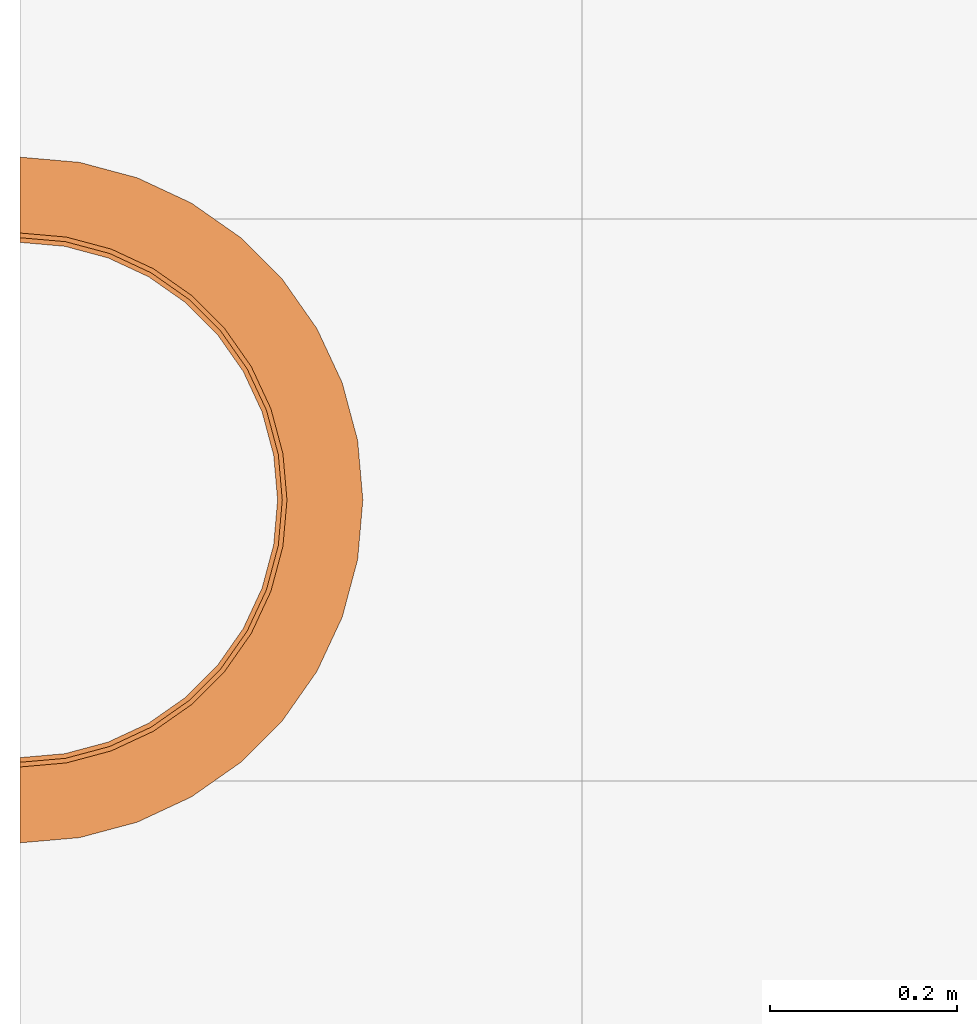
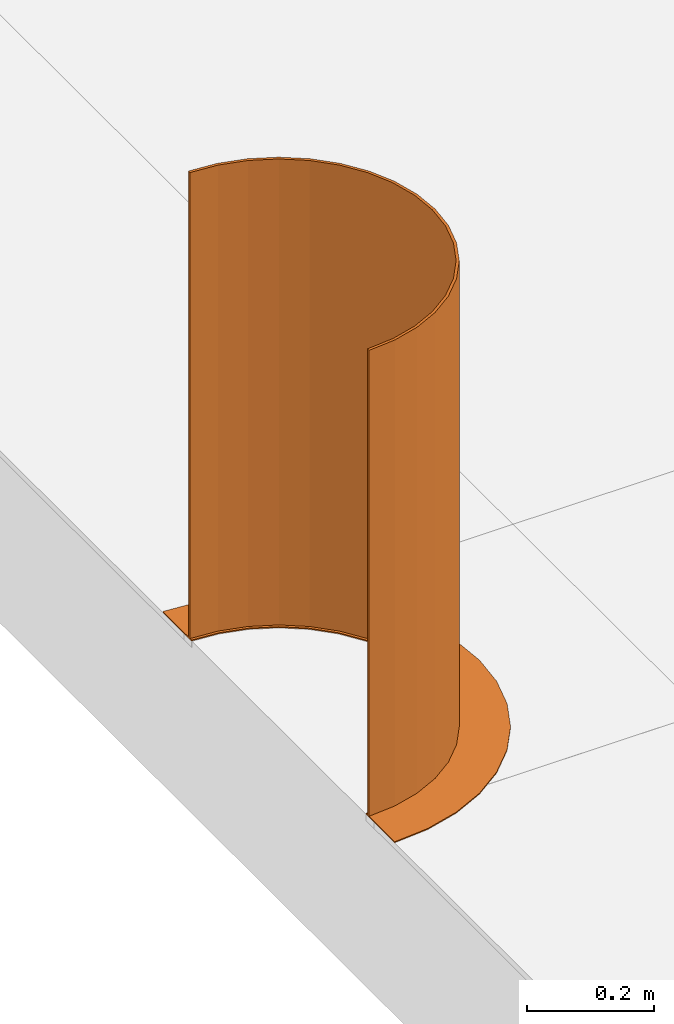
# One storey, part 10 of 10: 1 proxy.
"""IFC2X3 building model written with IfcOpenShell, lengths in millimetres."""

from ifc_helpers import new_model, entity, si_unit, converted_unit, derived_unit, direction, frame, origin, origin_with_axes, place, context, subcontext, project, spatial, faceted_brep, material, type_object, element, save


model = new_model("IFC2X3")

# Units and contexts
model_context = context("Model", 3, precision=0.01, world=origin(), true_north=direction((6.12303176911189e-17, 1.0)))
plan_context = context("Plan", 3, precision=1e-05, world=origin_with_axes())
body_context = subcontext(model_context, "Body", "Model", "MODEL_VIEW")
ifc_project = project(units=[converted_unit("PLANEANGLEUNIT", "DEGREE", entity("IfcPositiveLengthMeasure", 0.0174532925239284), si_unit("PLANEANGLEUNIT", "RADIAN"), dimensions=[0, 0, 0, 0, 0, 0, 0]), si_unit("AREAUNIT", "SQUARE_METRE"), si_unit("LENGTHUNIT", "METRE", prefix="MILLI"), si_unit("MASSUNIT", "GRAM", prefix="KILO"), si_unit("POWERUNIT", "WATT"), si_unit("PRESSUREUNIT", "PASCAL"), si_unit("FORCEUNIT", "NEWTON", prefix="KILO"), si_unit("ELECTRICVOLTAGEUNIT", "VOLT"), si_unit("ELECTRICCURRENTUNIT", "AMPERE"), si_unit("THERMODYNAMICTEMPERATUREUNIT", "DEGREE_CELSIUS"), si_unit("TIMEUNIT", "SECOND"), si_unit("VOLUMEUNIT", "CUBIC_METRE"), derived_unit("LINEARVELOCITYUNIT", [(si_unit("LENGTHUNIT", "METRE"), 1), (si_unit("TIMEUNIT", "SECOND"), -1)]), derived_unit("VOLUMETRICFLOWRATEUNIT", [(si_unit("VOLUMEUNIT", "CUBIC_METRE"), 1), (si_unit("TIMEUNIT", "SECOND"), -1)]), derived_unit("THERMALTRANSMITTANCEUNIT", [(si_unit("POWERUNIT", "WATT"), 1), (si_unit("THERMODYNAMICTEMPERATUREUNIT", "KELVIN"), -1), (si_unit("AREAUNIT", "SQUARE_METRE"), -1)]), derived_unit("SOUNDPRESSUREUNIT", [(si_unit("PRESSUREUNIT", "PASCAL"), 1)])], contexts=[model_context, plan_context])

# Site, building, storey
site_placement = place(None, frame((2314154.5009392, 1029894.10887124, 0.0), z_axis=(0.0, 0.0, 1.0), x_axis=(1.0, 0.0, 0.0)))
site = spatial("IfcSite", under=ifc_project, at=site_placement, Name="Default", CompositionType="ELEMENT")
building_placement = place(site_placement, origin_with_axes())
building = spatial("IfcBuilding", under=site, at=building_placement, CompositionType="ELEMENT")
storey_placement = place(building_placement, frame((0.0, 0.0, 9320.0), z_axis=(0.0, 0.0, 1.0), x_axis=(1.0, 0.0, 0.0)))
storey = spatial("IfcBuildingStorey", under=building, at=storey_placement, Name="H01 Hovedetasje", CompositionType="ELEMENT", Elevation=9320.0)

# Proxy
ifc_material = material(Name="<Unnamed>")
building_element_proxy_type = type_object("IfcBuildingElementProxyType", Name="Værnes_Søylebeskyttelse_E1_rustfritt stål:Værnes_Søylebeskyttelse_E1_rustfritt stål", PredefinedType="NOTDEFINED", material=ifc_material)
proxy_placement = place(storey_placement, frame((93260.3339473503, -39949.2076563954, 0.0), z_axis=(0.0, 0.0, 1.0), x_axis=(1.0, 0.0, 0.0)))
element("IfcBuildingElementProxy", 1, at=proxy_placement, inside=storey, type_object=building_element_proxy_type, Name="Værnes_Søylebeskyttelse_E1_rustfritt stål:Værnes_Søylebeskyttelse_E1_rustfritt stål", ObjectType="Værnes_Søylebeskyttelse_E1_rustfritt stål:Værnes_Søylebeskyttelse_E1_rustfritt stål", context=body_context, shape_type="Brep", body=[
    faceted_brep([(275.0, -5.91289314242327e-13, 0.0), (275.0, -5.91289314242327e-13, 2.0), (270.822132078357, -47.7532488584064, 2.0), (270.822132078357, -47.7532488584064, 0.0), (258.415470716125, -94.0555394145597, 2.0), (258.415470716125, -94.0555394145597, 0.0), (238.156986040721, -137.500000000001, 2.0), (238.156986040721, -137.500000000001, 0.0), (210.662221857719, -176.766592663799, 2.0), (210.662221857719, -176.766592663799, 0.0), (176.766592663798, -210.66222185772, 2.0), (176.766592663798, -210.66222185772, 0.0), (137.5, -238.156986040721, 2.0), (137.5, -238.156986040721, 0.0), (94.0555394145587, -258.415470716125, 2.0), (94.0555394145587, -258.415470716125, 0.0), (47.7532488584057, -270.822132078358, 2.0), (47.7532488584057, -270.822132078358, 0.0), (-4.97888885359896e-14, -275.000000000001, 2.0), (-4.97888885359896e-14, -275.000000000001, 0.0), (1.75666854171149e-14, 274.999999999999, 0.0), (1.75666854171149e-14, 274.999999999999, 2.0), (47.7532488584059, 270.822132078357, 2.0), (47.7532488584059, 270.822132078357, 0.0), (94.0555394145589, 258.415470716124, 2.0), (94.0555394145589, 258.415470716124, 0.0), (137.5, 238.15698604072, 2.0), (137.5, 238.15698604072, 0.0), (176.766592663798, 210.662221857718, 2.0), (176.766592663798, 210.662221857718, 0.0), (210.662221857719, 176.766592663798, 2.0), (210.662221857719, 176.766592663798, 0.0), (238.156986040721, 137.499999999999, 2.0), (238.156986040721, 137.499999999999, 0.0), (258.415470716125, 94.0555394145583, 2.0), (258.415470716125, 94.0555394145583, 0.0), (270.822132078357, 47.7532488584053, 2.0), (270.822132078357, 47.7532488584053, 0.0), (360.439637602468, -63.5552330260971, 0.0), (360.439637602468, -63.5552330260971, 2.0), (366.0, -5.91289314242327e-13, 2.0), (366.0, -5.91289314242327e-13, 0.0), (360.439637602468, 63.5552330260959, 2.0), (360.439637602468, 63.5552330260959, 0.0), (343.927499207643, 125.179372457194, 2.0), (343.927499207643, 125.179372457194, 0.0), (316.965297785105, 182.999999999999, 2.0), (316.965297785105, 182.999999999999, 0.0), (280.372266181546, 235.260265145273, 2.0), (280.372266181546, 235.260265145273, 0.0), (235.260265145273, 280.372266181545, 2.0), (235.260265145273, 280.372266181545, 0.0), (183.0, 316.965297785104, 2.0), (183.0, 316.965297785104, 0.0), (125.179372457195, 343.927499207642, 2.0), (125.179372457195, 343.927499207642, 0.0), (63.5552330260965, 360.439637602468, 2.0), (63.5552330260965, 360.439637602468, 0.0), (2.31388283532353e-14, 365.999999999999, 2.0), (2.31388283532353e-14, 365.999999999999, 0.0), (-6.6505317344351e-14, -366.000000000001, 0.0), (-6.6505317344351e-14, -366.000000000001, 2.0), (63.5552330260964, -360.439637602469, 2.0), (63.5552330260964, -360.439637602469, 0.0), (125.179372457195, -343.927499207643, 2.0), (125.179372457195, -343.927499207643, 0.0), (183.0, -316.965297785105, 2.0), (183.0, -316.965297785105, 0.0), (235.260265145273, -280.372266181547, 2.0), (235.260265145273, -280.372266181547, 0.0), (280.372266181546, -235.260265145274, 2.0), (280.372266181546, -235.260265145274, 0.0), (316.965297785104, -183.000000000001, 2.0), (316.965297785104, -183.000000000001, 0.0), (343.927499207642, -125.179372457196, 2.0), (343.927499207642, -125.179372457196, 0.0)], [[[0, 1, 2, 3]], [[3, 2, 4, 5]], [[5, 4, 6, 7]], [[7, 6, 8, 9]], [[9, 8, 10, 11]], [[11, 10, 12, 13]], [[13, 12, 14, 15]], [[15, 14, 16, 17]], [[17, 16, 18, 19]], [[20, 21, 22, 23]], [[23, 22, 24, 25]], [[25, 24, 26, 27]], [[27, 26, 28, 29]], [[29, 28, 30, 31]], [[31, 30, 32, 33]], [[33, 32, 34, 35]], [[35, 34, 36, 37]], [[37, 36, 1, 0]], [[38, 39, 40, 41]], [[41, 40, 42, 43]], [[43, 42, 44, 45]], [[45, 44, 46, 47]], [[47, 46, 48, 49]], [[49, 48, 50, 51]], [[51, 50, 52, 53]], [[53, 52, 54, 55]], [[55, 54, 56, 57]], [[57, 56, 58, 59]], [[60, 61, 62, 63]], [[63, 62, 64, 65]], [[65, 64, 66, 67]], [[67, 66, 68, 69]], [[69, 68, 70, 71]], [[71, 70, 72, 73]], [[73, 72, 74, 75]], [[75, 74, 39, 38]], [[59, 20, 23, 25, 27, 29, 31, 33, 35, 37, 0, 3, 5, 7, 9, 11, 13, 15, 17, 19, 60, 63, 65, 67, 69, 71, 73, 75, 38, 41, 43, 45, 47, 49, 51, 53, 55, 57]], [[61, 18, 16, 14, 12, 10, 8, 6, 4, 2, 1, 36, 34, 32, 30, 28, 26, 24, 22, 21, 58, 56, 54, 52, 50, 48, 46, 44, 42, 40, 39, 74, 72, 70, 68, 66, 64, 62]], [[61, 60, 19, 18]], [[59, 58, 21, 20]]], orient=[[False], [False], [False], [False], [False], [False], [False], [False], [False], [False], [False], [False], [False], [False], [False], [False], [False], [False], [False], [False], [False], [False], [False], [False], [False], [False], [False], [False], [False], [False], [False], [False], [False], [False], [False], [False], [False], [False], [False], [False]]),
    faceted_brep([(280.0, -4.60430203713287e-13, 0.0), (280.0, -4.60430203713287e-13, 900.0), (275.746170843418, -48.621489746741, 900.0), (275.746170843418, -48.621489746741, 0.0), (263.113933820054, -95.7656401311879, 900.0), (263.113933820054, -95.7656401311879, 0.0), (242.487113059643, -140.000000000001, 900.0), (242.487113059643, -140.000000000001, 0.0), (214.492444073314, -179.980530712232, 900.0), (214.492444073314, -179.980530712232, 0.0), (179.980530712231, -214.492444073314, 900.0), (179.980530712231, -214.492444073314, 0.0), (140.0, -242.487113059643, 900.0), (140.0, -242.487113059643, 0.0), (95.7656401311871, -263.113933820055, 900.0), (95.7656401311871, -263.113933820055, 0.0), (48.6214897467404, -275.746170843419, 900.0), (48.6214897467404, -275.746170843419, 0.0), (-5.77800901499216e-14, -280.0, 900.0), (-5.77800901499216e-14, -280.0, 0.0), (1.08001306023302e-14, 280.0, 0.0), (1.08001306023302e-14, 280.0, 900.0), (48.6214897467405, 275.746170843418, 900.0), (48.6214897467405, 275.746170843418, 0.0), (95.7656401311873, 263.113933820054, 900.0), (95.7656401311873, 263.113933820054, 0.0), (140.0, 242.487113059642, 900.0), (140.0, 242.487113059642, 0.0), (179.980530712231, 214.492444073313, 900.0), (179.980530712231, 214.492444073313, 0.0), (214.492444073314, 179.980530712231, 900.0), (214.492444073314, 179.980530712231, 0.0), (242.487113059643, 140.0, 900.0), (242.487113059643, 140.0, 0.0), (263.113933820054, 95.7656401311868, 900.0), (263.113933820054, 95.7656401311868, 0.0), (275.746170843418, 48.62148974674, 900.0), (275.746170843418, 48.62148974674, 0.0), (280.670209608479, -49.4897306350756, 0.0), (280.670209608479, -49.4897306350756, 900.0), (285.0, -4.60430203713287e-13, 900.0), (285.0, -4.60430203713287e-13, 0.0), (280.670209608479, 49.4897306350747, 900.0), (280.670209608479, 49.4897306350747, 0.0), (267.812396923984, 97.4757408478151, 900.0), (267.812396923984, 97.4757408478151, 0.0), (246.817240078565, 142.5, 900.0), (246.817240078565, 142.5, 0.0), (218.322666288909, 183.194468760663, 900.0), (218.322666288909, 183.194468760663, 0.0), (183.194468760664, 218.322666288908, 900.0), (183.194468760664, 218.322666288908, 0.0), (142.5, 246.817240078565, 900.0), (142.5, 246.817240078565, 0.0), (97.4757408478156, 267.812396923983, 900.0), (97.4757408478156, 267.812396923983, 0.0), (49.4897306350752, 280.670209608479, 900.0), (49.4897306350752, 280.670209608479, 0.0), (1.1106292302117e-14, 285.0, 900.0), (1.1106292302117e-14, 285.0, 0.0), (-5.86985752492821e-14, -285.0, 0.0), (-5.86985752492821e-14, -285.0, 900.0), (49.489730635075, -280.67020960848, 900.0), (49.489730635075, -280.67020960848, 0.0), (97.4757408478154, -267.812396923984, 900.0), (97.4757408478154, -267.812396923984, 0.0), (142.5, -246.817240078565, 900.0), (142.5, -246.817240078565, 0.0), (183.194468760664, -218.322666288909, 900.0), (183.194468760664, -218.322666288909, 0.0), (218.322666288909, -183.194468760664, 900.0), (218.322666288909, -183.194468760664, 0.0), (246.817240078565, -142.500000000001, 900.0), (246.817240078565, -142.500000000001, 0.0), (267.812396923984, -97.4757408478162, 900.0), (267.812396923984, -97.4757408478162, 0.0)], [[[0, 1, 2, 3]], [[3, 2, 4, 5]], [[5, 4, 6, 7]], [[7, 6, 8, 9]], [[9, 8, 10, 11]], [[11, 10, 12, 13]], [[13, 12, 14, 15]], [[15, 14, 16, 17]], [[17, 16, 18, 19]], [[20, 21, 22, 23]], [[23, 22, 24, 25]], [[25, 24, 26, 27]], [[27, 26, 28, 29]], [[29, 28, 30, 31]], [[31, 30, 32, 33]], [[33, 32, 34, 35]], [[35, 34, 36, 37]], [[37, 36, 1, 0]], [[38, 39, 40, 41]], [[41, 40, 42, 43]], [[43, 42, 44, 45]], [[45, 44, 46, 47]], [[47, 46, 48, 49]], [[49, 48, 50, 51]], [[51, 50, 52, 53]], [[53, 52, 54, 55]], [[55, 54, 56, 57]], [[57, 56, 58, 59]], [[60, 61, 62, 63]], [[63, 62, 64, 65]], [[65, 64, 66, 67]], [[67, 66, 68, 69]], [[69, 68, 70, 71]], [[71, 70, 72, 73]], [[73, 72, 74, 75]], [[75, 74, 39, 38]], [[59, 20, 23, 25, 27, 29, 31, 33, 35, 37, 0, 3, 5, 7, 9, 11, 13, 15, 17, 19, 60, 63, 65, 67, 69, 71, 73, 75, 38, 41, 43, 45, 47, 49, 51, 53, 55, 57]], [[61, 18, 16, 14, 12, 10, 8, 6, 4, 2, 1, 36, 34, 32, 30, 28, 26, 24, 22, 21, 58, 56, 54, 52, 50, 48, 46, 44, 42, 40, 39, 74, 72, 70, 68, 66, 64, 62]], [[61, 60, 19, 18]], [[59, 58, 21, 20]]], orient=[[False], [False], [False], [False], [False], [False], [False], [False], [False], [False], [False], [False], [False], [False], [False], [False], [False], [False], [False], [False], [False], [False], [False], [False], [False], [False], [False], [False], [False], [False], [False], [False], [False], [False], [False], [False], [False], [False], [False], [False]]),
])

save(model, "model.ifc")
